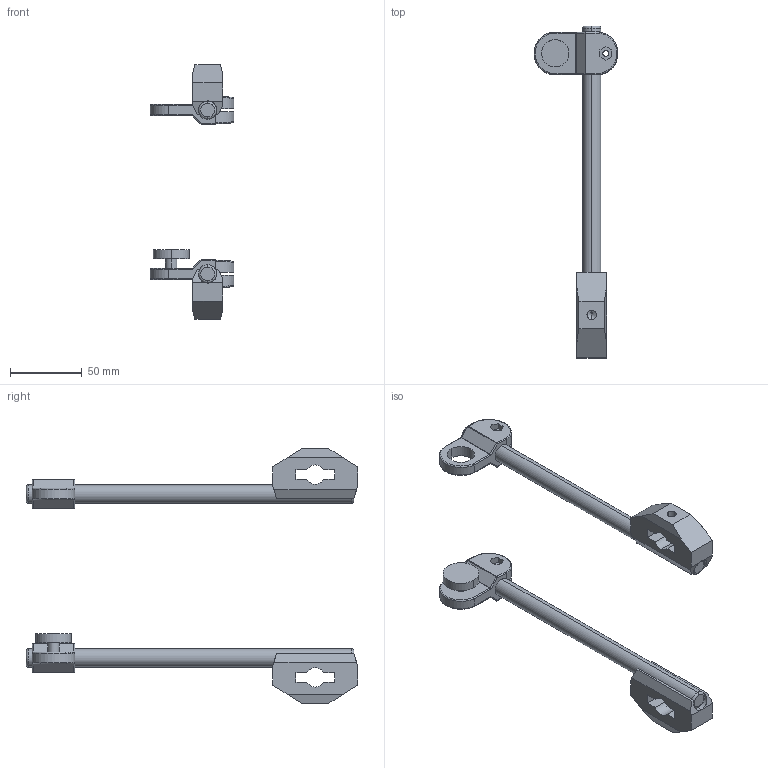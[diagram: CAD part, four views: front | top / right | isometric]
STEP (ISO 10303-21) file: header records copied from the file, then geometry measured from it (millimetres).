
FILE_DESCRIPTION((''),'2;1');
FILE_NAME('7352RM-AM_ASM','2023-03-23T',('jenni.wallner'),(''),'PRO/ENGINEER BY PARAMETRIC TECHNOLOGY CORPORATION, 2012420','PRO/ENGINEER BY PARAMETRIC TECHNOLOGY CORPORATION, 2012420','');
FILE_SCHEMA(('CONFIG_CONTROL_DESIGN'));
Length unit declared in the file: inch
Products named in the file (7): 532249; 807-1844; 807-1390; 809-289_809-289_BANNER; 807-1391; ASM0001_ASM; 7352RM-AM_ASM
Assembly tree (8 placements, depth 3):
  7352RM-AM_ASM
    ASM0001_ASM
      532249  x2
      807-1844  x2
      807-1390
      809-289_809-289_BANNER
      807-1391
Bounding box: 58.37 x 231.33 x 177.55 mm (x, y, z)
Volume: 138851.3 mm3; surface area: 51232.1 mm2
Topology: 7 solids, 7 shells, 212 faces, 509 edges, 316 vertices
Faces by surface type: plane 91, cylinder 85, bspline 20, torus 12, cone 4
Entity records: 6608 total; most frequent: CARTESIAN_POINT 2583, ORIENTED_EDGE 806, DIRECTION 789, EDGE_CURVE 403, AXIS2_PLACEMENT_3D 288, VERTEX_POINT 249, VECTOR 213, LINE 213
